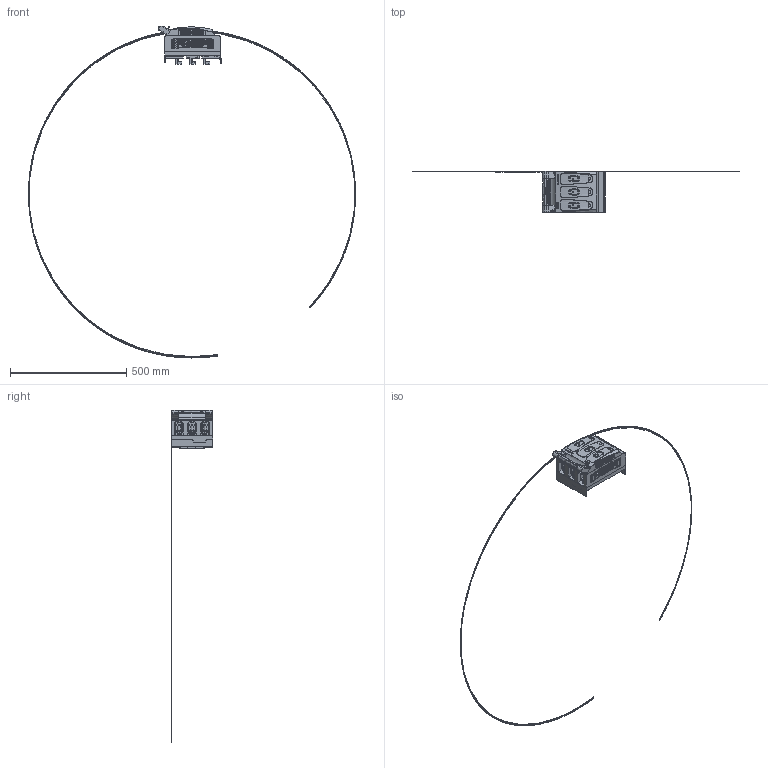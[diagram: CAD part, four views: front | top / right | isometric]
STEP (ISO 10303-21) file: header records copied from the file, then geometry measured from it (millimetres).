
FILE_DESCRIPTION(/* description */ (''),/* implementation_level */ '2;1');
FILE_NAME(/* name */ 'RBK 1-VG-S.stp',/* time_stamp */ '2020-09-04T09:36:52+02:00',/* author */ (''),/* organization */ (''),/* preprocessor_version */ 'ST-DEVELOPER v16',/* originating_system */ 'SIEMENS PLM Software NX 10.0',/* authorisation */ '');
FILE_SCHEMA (('AUTOMOTIVE_DESIGN { 1 0 10303 214 3 1 1 1 }'));
Products named in the file (1): Apat0758F2DC4i1x
Bounding box: 1406.97 x 180 x 1428.62 mm (x, y, z)
Volume: 4811685 mm3; surface area: 370056.5 mm2
Topology: 1 solids, 8 shells, 2760 faces, 7384 edges, 4715 vertices
Faces by surface type: plane 1818, cylinder 342, bspline 335, cone 119, torus 76, extrusion 28, sphere 24, revolution 18
Entity records: 101843 total; most frequent: CARTESIAN_POINT 34463, ORIENTED_EDGE 14590, DIRECTION 13443, EDGE_CURVE 7295, AXIS2_PLACEMENT_3D 4710, VERTEX_POINT 4697, VECTOR 4005, LINE 3977
